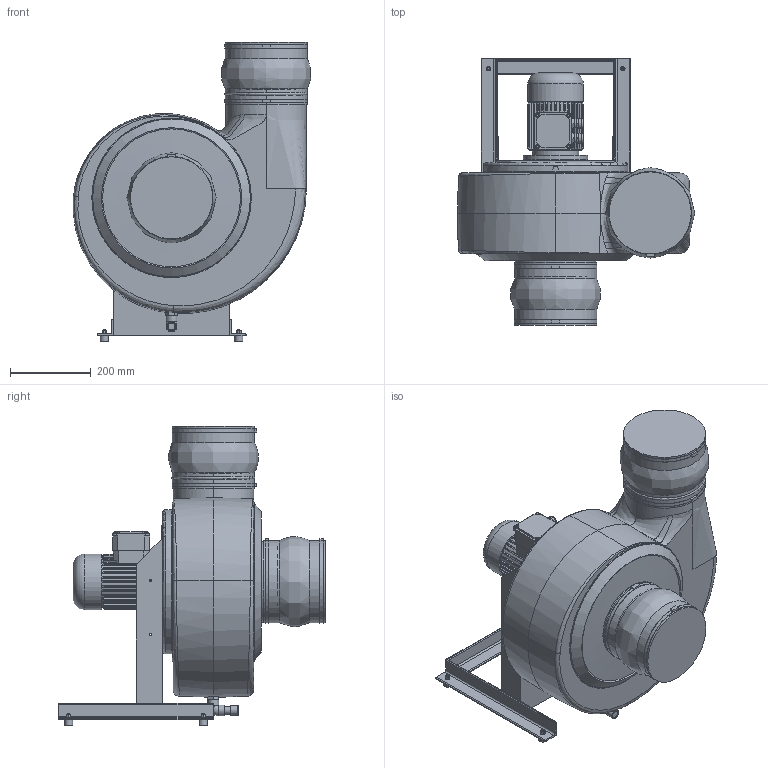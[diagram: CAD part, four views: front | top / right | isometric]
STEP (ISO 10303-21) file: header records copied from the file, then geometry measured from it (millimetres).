
FILE_DESCRIPTION( ( 'Unknown' ), '1' );
FILE_NAME( 'K:/HOME/HLT_CAD/Z/HF/3D/Zusammenstellung/HFR/HFR 15_17/HFR...-15D/DS_1/HFR_200-15D/GR360/HFR_200-15D_DS1_GR_360_071.stp', 'Unknown', ( 'Unknown' ), ( 'Unknown' ), 'PSStep 17.0.49', 'Unknown', ' ' );
FILE_SCHEMA( ( 'AUTOMOTIVE_DESIGN { 1 0 10303 214 1 1 1 1 }' ) );
Length unit declared in the file: millimetre
Products named in the file (30): 5301_Gestell_HFR200_15_17_D_DS1; Angle 40x40x4-oa1; Angle 40x40x4-oa2; Angle 40x40x4-oa3; 5301_Gehäusebefestigungsplatte-oa4; 6203_Kugelmanschette; 6203_Manschettenband_HFR200; 6203_Schelle_HFR200; Laufrad 200; Deckscheibe 200; Nabe 160-315; 1108_19; 5159_Kondensatablauf_125-315; Winkel_90°_G1_2; Stopfen_G1_2-oa0; Rohr_20; Verschlusskappe_20; 5217_Laufradbefestigung; 5217_Drehteil; 5217_Flachdichtung_Ø32; 5217_Schraubkappe; 5217_Flachdichtung_Ø63; Assem1; 200 mit laufrad HF R 200; 6611_Motorring_Bg71; Gehäuse_200_GR_abgeschn; B5_71a_2HIHI_gewicht; Schwidä_20x15; 6kant_M6
Assembly tree (37 placements, depth 3):
  Assem1
    200 mit laufrad HF R 200
    6611_Motorring_Bg71
    Gehäuse_200_GR_abgeschn
    B5_71a_2HIHI_gewicht
    Schwidä_20x15  x4
    6kant_M6  x4
    Laufrad 200
      Deckscheibe 200
      Laufrad 200
      Nabe 160-315
      1108_19
    5159_Kondensatablauf_125-315
      Winkel_90°_G1_2
      Stopfen_G1_2-oa0
      Rohr_20
      Verschlusskappe_20
    6203_Kugelmanschette  x2
      6203_Manschettenband_HFR200
      6203_Schelle_HFR200
    5217_Laufradbefestigung
      5217_Drehteil
      5217_Flachdichtung_Ø32
      5217_Schraubkappe
      5217_Flachdichtung_Ø63
    5301_Gestell_HFR200_15_17_D_DS1
      Angle 40x40x4-oa1
      Angle 40x40x4-oa2
      Angle 40x40x4-oa3
      5301_Gehäusebefestigungsplatte-oa4
Bounding box: 590.09 x 663 x 743 mm (x, y, z)
Volume: 71216371.5 mm3; surface area: 2861587.2 mm2
Topology: 34 solids, 34 shells, 1363 faces, 3312 edges, 2112 vertices
Faces by surface type: plane 744, cylinder 304, cone 139, bspline 128, torus 36, extrusion 4, revolution 4, sphere 4
Full cylindrical faces by diameter (mm): 3.5 x3, 4.134 x1, 4.917 x4, 4.92 x4, 5.5 x4, 6 x8, 6.35 x2, 8 x6, 9 x6, 10 x8, 10.5 x1, 11 x8, 12 x1, 13 x9, 14 x1, 16 x2, 16.8 x1, 17 x1, 20 x8, 20.955 x1, 22.212 x1, 23 x1, 24 x4, 25 x1, 26.5 x2, 30.291 x1, 32 x1, 33.25 x1, 37 x1, 40 x1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
Entity records: 81807 total; most frequent: CARTESIAN_POINT 42455, ORIENTED_EDGE 5800, DIRECTION 5420, EDGE_CURVE 2900, AXIS2_PLACEMENT_3D 2001, VERTEX_POINT 1933, EDGE_LOOP 1609, VECTOR 1414
